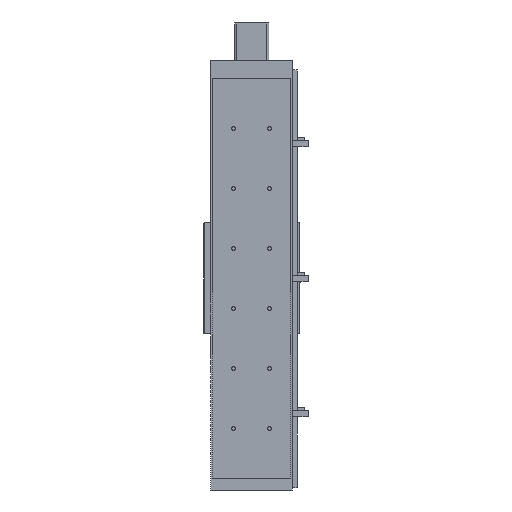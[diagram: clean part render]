
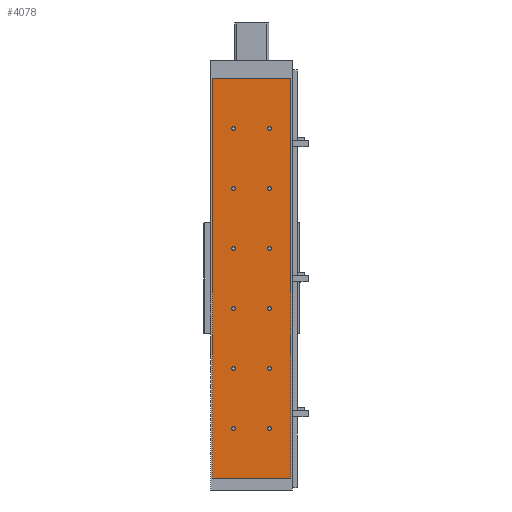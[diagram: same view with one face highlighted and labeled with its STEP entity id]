
A CAD part, front view. The second image highlights one B-rep face of the part: STEP entity #4078.
In plain terms, the highlighted planar face has unit normal (0, -1, 0).
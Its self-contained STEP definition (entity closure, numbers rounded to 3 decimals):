
#2214=CARTESIAN_POINT('',(26.75,0.0,82.5));
#2215=VERTEX_POINT('',#2214);
#2216=CARTESIAN_POINT('',(30.,0.0,82.5));
#2217=DIRECTION('',(0.0,1.0,0.0));
#2218=DIRECTION('',(1.0,0.0,0.0));
#2219=AXIS2_PLACEMENT_3D('',#2216,#2217,#2218);
#2220=CIRCLE('',#2219,3.25);
#2221=EDGE_CURVE('',#2215,#2215,#2220,.T.);
#2255=CARTESIAN_POINT('',(-33.25,0.0,82.5));
#2256=VERTEX_POINT('',#2255);
#2257=CARTESIAN_POINT('',(-30.,0.0,82.5));
#2258=DIRECTION('',(0.0,1.0,0.0));
#2259=DIRECTION('',(1.0,0.0,0.0));
#2260=AXIS2_PLACEMENT_3D('',#2257,#2258,#2259);
#2261=CIRCLE('',#2260,3.25);
#2262=EDGE_CURVE('',#2256,#2256,#2261,.T.);
#2434=CARTESIAN_POINT('',(26.75,0.0,182.5));
#2435=VERTEX_POINT('',#2434);
#2436=CARTESIAN_POINT('',(30.,0.0,182.5));
#2437=DIRECTION('',(0.0,1.0,0.0));
#2438=DIRECTION('',(1.0,0.0,0.0));
#2439=AXIS2_PLACEMENT_3D('',#2436,#2437,#2438);
#2440=CIRCLE('',#2439,3.25);
#2441=EDGE_CURVE('',#2435,#2435,#2440,.T.);
#2475=CARTESIAN_POINT('',(-33.25,0.0,182.5));
#2476=VERTEX_POINT('',#2475);
#2477=CARTESIAN_POINT('',(-30.,0.0,182.5));
#2478=DIRECTION('',(0.0,1.0,0.0));
#2479=DIRECTION('',(1.0,0.0,0.0));
#2480=AXIS2_PLACEMENT_3D('',#2477,#2478,#2479);
#2481=CIRCLE('',#2480,3.25);
#2482=EDGE_CURVE('',#2476,#2476,#2481,.T.);
#2585=CARTESIAN_POINT('',(-33.25,0.0,482.5));
#2586=VERTEX_POINT('',#2585);
#2587=CARTESIAN_POINT('',(-30.,0.0,482.5));
#2588=DIRECTION('',(0.0,1.0,0.0));
#2589=DIRECTION('',(1.0,0.0,0.0));
#2590=AXIS2_PLACEMENT_3D('',#2587,#2588,#2589);
#2591=CIRCLE('',#2590,3.25);
#2592=EDGE_CURVE('',#2586,#2586,#2591,.T.);
#2764=CARTESIAN_POINT('',(26.75,0.0,482.5));
#2765=VERTEX_POINT('',#2764);
#2766=CARTESIAN_POINT('',(30.,0.0,482.5));
#2767=DIRECTION('',(0.0,1.0,0.0));
#2768=DIRECTION('',(1.0,0.0,0.0));
#2769=AXIS2_PLACEMENT_3D('',#2766,#2767,#2768);
#2770=CIRCLE('',#2769,3.25);
#2771=EDGE_CURVE('',#2765,#2765,#2770,.T.);
#2805=CARTESIAN_POINT('',(-33.25,0.0,582.5));
#2806=VERTEX_POINT('',#2805);
#2807=CARTESIAN_POINT('',(-30.,0.0,582.5));
#2808=DIRECTION('',(0.0,1.0,0.0));
#2809=DIRECTION('',(1.0,0.0,0.0));
#2810=AXIS2_PLACEMENT_3D('',#2807,#2808,#2809);
#2811=CIRCLE('',#2810,3.25);
#2812=EDGE_CURVE('',#2806,#2806,#2811,.T.);
#2984=CARTESIAN_POINT('',(26.75,0.0,582.5));
#2985=VERTEX_POINT('',#2984);
#2986=CARTESIAN_POINT('',(30.,0.0,582.5));
#2987=DIRECTION('',(0.0,1.0,0.0));
#2988=DIRECTION('',(1.0,0.0,0.0));
#2989=AXIS2_PLACEMENT_3D('',#2986,#2987,#2988);
#2990=CIRCLE('',#2989,3.25);
#2991=EDGE_CURVE('',#2985,#2985,#2990,.T.);
#3025=CARTESIAN_POINT('',(-33.25,0.0,282.5));
#3026=VERTEX_POINT('',#3025);
#3027=CARTESIAN_POINT('',(-30.,0.0,282.5));
#3028=DIRECTION('',(0.0,1.0,0.0));
#3029=DIRECTION('',(1.0,0.0,0.0));
#3030=AXIS2_PLACEMENT_3D('',#3027,#3028,#3029);
#3031=CIRCLE('',#3030,3.25);
#3032=EDGE_CURVE('',#3026,#3026,#3031,.T.);
#3204=CARTESIAN_POINT('',(26.75,0.0,282.5));
#3205=VERTEX_POINT('',#3204);
#3206=CARTESIAN_POINT('',(30.,0.0,282.5));
#3207=DIRECTION('',(0.0,1.0,0.0));
#3208=DIRECTION('',(1.0,0.0,0.0));
#3209=AXIS2_PLACEMENT_3D('',#3206,#3207,#3208);
#3210=CIRCLE('',#3209,3.25);
#3211=EDGE_CURVE('',#3205,#3205,#3210,.T.);
#3314=CARTESIAN_POINT('',(26.75,0.0,382.5));
#3315=VERTEX_POINT('',#3314);
#3316=CARTESIAN_POINT('',(30.,0.0,382.5));
#3317=DIRECTION('',(0.0,1.0,0.0));
#3318=DIRECTION('',(1.0,0.0,0.0));
#3319=AXIS2_PLACEMENT_3D('',#3316,#3317,#3318);
#3320=CIRCLE('',#3319,3.25);
#3321=EDGE_CURVE('',#3315,#3315,#3320,.T.);
#3424=CARTESIAN_POINT('',(-33.25,0.0,382.5));
#3425=VERTEX_POINT('',#3424);
#3426=CARTESIAN_POINT('',(-30.,0.0,382.5));
#3427=DIRECTION('',(0.0,1.0,0.0));
#3428=DIRECTION('',(1.0,0.0,0.0));
#3429=AXIS2_PLACEMENT_3D('',#3426,#3427,#3428);
#3430=CIRCLE('',#3429,3.25);
#3431=EDGE_CURVE('',#3425,#3425,#3430,.T.);
#3758=CARTESIAN_POINT('',(65.0,0.0,0.0));
#3759=VERTEX_POINT('',#3758);
#3766=CARTESIAN_POINT('',(-65.0,0.0,0.0));
#3767=VERTEX_POINT('',#3766);
#3768=CARTESIAN_POINT('',(-65.0,0.0,0.0));
#3769=DIRECTION('',(1.0,0.0,0.0));
#3770=VECTOR('',#3769,130.0);
#3771=LINE('',#3768,#3770);
#3772=EDGE_CURVE('',#3767,#3759,#3771,.T.);
#3962=CARTESIAN_POINT('',(-65.0,0.0,665.0));
#3963=VERTEX_POINT('',#3962);
#3970=CARTESIAN_POINT('',(65.0,0.0,665.0));
#3971=VERTEX_POINT('',#3970);
#3972=CARTESIAN_POINT('',(65.0,0.0,665.0));
#3973=DIRECTION('',(-1.0,0.0,0.0));
#3974=VECTOR('',#3973,130.0);
#3975=LINE('',#3972,#3974);
#3976=EDGE_CURVE('',#3971,#3963,#3975,.T.);
#3999=CARTESIAN_POINT('',(-65.0,0.0,0.0));
#4000=DIRECTION('',(0.0,0.0,1.0));
#4001=VECTOR('',#4000,665.0);
#4002=LINE('',#3999,#4001);
#4003=EDGE_CURVE('',#3767,#3963,#4002,.T.);
#4021=CARTESIAN_POINT('',(65.0,0.0,0.0));
#4022=DIRECTION('',(0.0,0.0,1.0));
#4023=VECTOR('',#4022,665.0);
#4024=LINE('',#4021,#4023);
#4025=EDGE_CURVE('',#3759,#3971,#4024,.T.);
#4031=CARTESIAN_POINT('',(65.0,0.0,0.0));
#4032=DIRECTION('',(0.0,-1.0,0.0));
#4033=DIRECTION('',(0.0,0.0,-1.0));
#4034=AXIS2_PLACEMENT_3D('',#4031,#4032,#4033);
#4035=PLANE('',#4034);
#4036=ORIENTED_EDGE('',*,*,#3976,.T.);
#4037=ORIENTED_EDGE('',*,*,#4003,.F.);
#4038=ORIENTED_EDGE('',*,*,#3772,.T.);
#4039=ORIENTED_EDGE('',*,*,#4025,.T.);
#4040=EDGE_LOOP('',(#4036,#4037,#4038,#4039));
#4041=FACE_OUTER_BOUND('',#4040,.T.);
#4042=ORIENTED_EDGE('',*,*,#2221,.T.);
#4043=EDGE_LOOP('',(#4042));
#4044=FACE_BOUND('',#4043,.T.);
#4045=ORIENTED_EDGE('',*,*,#2262,.T.);
#4046=EDGE_LOOP('',(#4045));
#4047=FACE_BOUND('',#4046,.T.);
#4048=ORIENTED_EDGE('',*,*,#2441,.T.);
#4049=EDGE_LOOP('',(#4048));
#4050=FACE_BOUND('',#4049,.T.);
#4051=ORIENTED_EDGE('',*,*,#2482,.T.);
#4052=EDGE_LOOP('',(#4051));
#4053=FACE_BOUND('',#4052,.T.);
#4054=ORIENTED_EDGE('',*,*,#2592,.T.);
#4055=EDGE_LOOP('',(#4054));
#4056=FACE_BOUND('',#4055,.T.);
#4057=ORIENTED_EDGE('',*,*,#2771,.T.);
#4058=EDGE_LOOP('',(#4057));
#4059=FACE_BOUND('',#4058,.T.);
#4060=ORIENTED_EDGE('',*,*,#2812,.T.);
#4061=EDGE_LOOP('',(#4060));
#4062=FACE_BOUND('',#4061,.T.);
#4063=ORIENTED_EDGE('',*,*,#2991,.T.);
#4064=EDGE_LOOP('',(#4063));
#4065=FACE_BOUND('',#4064,.T.);
#4066=ORIENTED_EDGE('',*,*,#3032,.T.);
#4067=EDGE_LOOP('',(#4066));
#4068=FACE_BOUND('',#4067,.T.);
#4069=ORIENTED_EDGE('',*,*,#3211,.T.);
#4070=EDGE_LOOP('',(#4069));
#4071=FACE_BOUND('',#4070,.T.);
#4072=ORIENTED_EDGE('',*,*,#3321,.T.);
#4073=EDGE_LOOP('',(#4072));
#4074=FACE_BOUND('',#4073,.T.);
#4075=ORIENTED_EDGE('',*,*,#3431,.T.);
#4076=EDGE_LOOP('',(#4075));
#4077=FACE_BOUND('',#4076,.T.);
#4078=ADVANCED_FACE('',(#4041,#4044,#4047,#4050,#4053,#4056,#4059,#4062,#4065,#4068,#4071,#4074,#4077),#4035,.T.);
